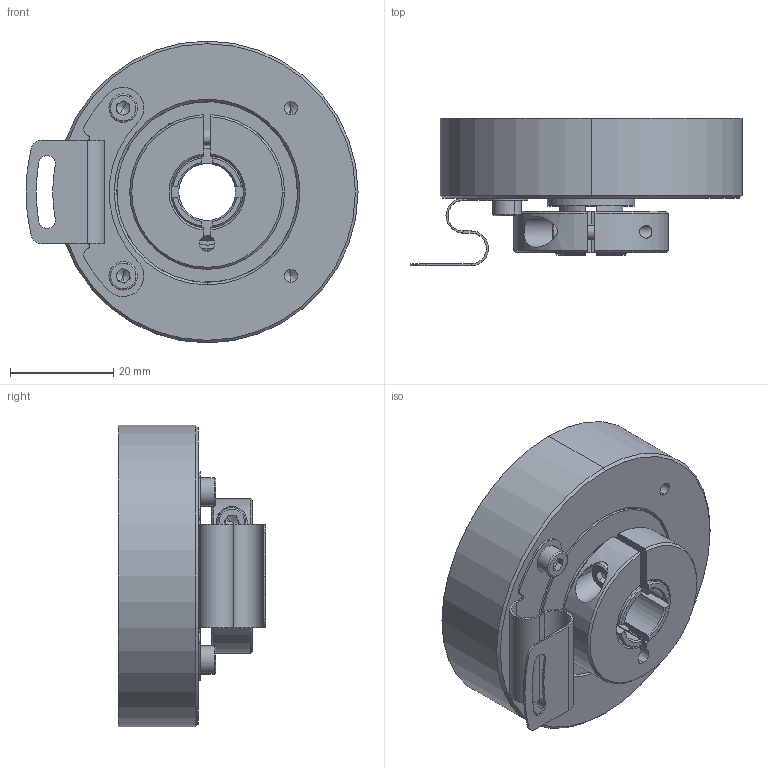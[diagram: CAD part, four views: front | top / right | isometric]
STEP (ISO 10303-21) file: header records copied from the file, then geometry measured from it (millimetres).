
FILE_DESCRIPTION (( 'STEP AP214' ), '1' );
FILE_NAME ('drawing-ucd-hbts-q5b-n.STEP', '2017-01-31T10:23:15', ( '' ), ( '' ), 'SwSTEP 2.0', 'SolidWorks 2015', '' );
FILE_SCHEMA (( 'AUTOMOTIVE_DESIGN' ));
Length unit declared in the file: millimetre
Products named in the file (1): drawing-ucd-hbts-q5b-n
Bounding box: 64.35 x 28.6 x 58.5 mm (x, y, z)
Volume: 41607.7 mm3; surface area: 26389.3 mm2
Topology: 26 solids, 26 shells, 597 faces, 1459 edges, 894 vertices
Faces by surface type: plane 219, bspline 146, cylinder 128, cone 92, torus 12
Entity records: 29937 total; most frequent: CARTESIAN_POINT 9917, ORIENTED_EDGE 2798, DIRECTION 2523, EDGE_CURVE 1399, AXIS2_PLACEMENT_3D 910, VERTEX_POINT 894, LINE 703, VECTOR 703
